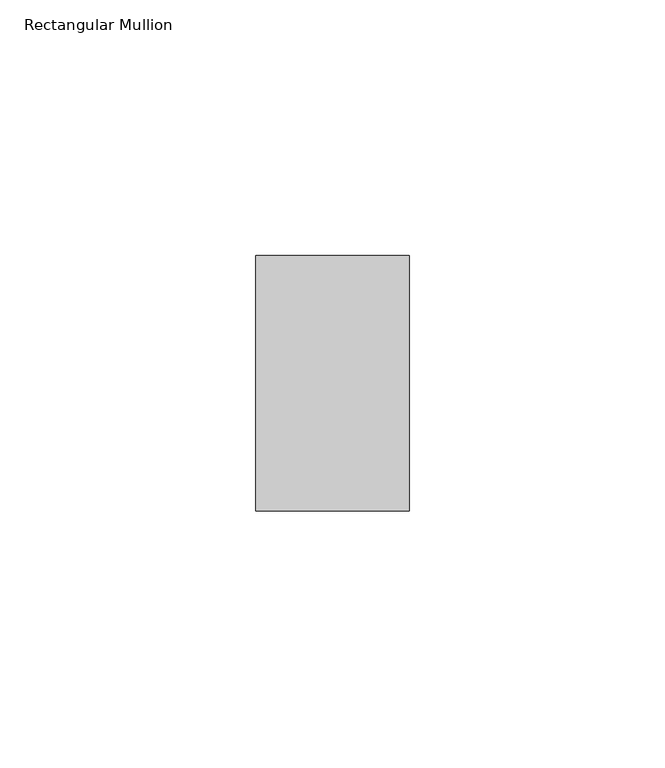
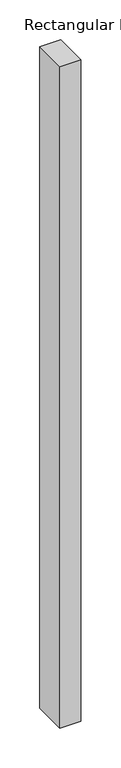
"""IFC4 building model written with IfcOpenShell, lengths in millimetres: member geometry, Rectangular Mullion : ARQ_TV_MULL_50x30mm."""

from ifc_helpers import new_model, si_unit, frame, origin, place, context, project, spatial, polyline, outline, extrude, source, transform, mapped, element, save


def rectangular_mullion_caa13081(model_context):
    return source(origin(), model_context, "Body", "SweptSolid", [
        extrude(outline(polyline([(0.0, 25.0), (0.0, -25.0), (-30.0, -25.0), (-30.0, 25.0), (0.0, 25.0)])), frame((0.0, 0.0, -1010.1431269), z_axis=(0.0, 0.0, 1.0), x_axis=(1.0, 0.0, 0.0)), (0.0, 0.0, 1.0), 1010.1431269),
    ])


if __name__ == "__main__":
    model = new_model("IFC4")
    model_context = context("Model", 3, world=origin())
    ifc_project = project(units=[si_unit("LENGTHUNIT", "METRE", prefix="MILLI")], contexts=[model_context])
    site = spatial("IfcSite", under=ifc_project)
    building = spatial("IfcBuilding", under=site)
    placement = place(None, origin())
    rectangular_mullion_shape = rectangular_mullion_caa13081(model_context)
    element("IfcMember", 1, ObjectType="Rectangular Mullion : ARQ_TV_MULL_50x30mm", at=placement, inside=building, context=model_context, shape_type="MappedRepresentation", body=[
        mapped(rectangular_mullion_shape, transform((0.0, 0.0, 0.0), x_axis=(1.0, 0.0, 0.0), y_axis=(0.0, 1.0, 0.0), z_axis=(0.0, 0.0, 1.0))),
    ])
    save(model, "model.ifc")
